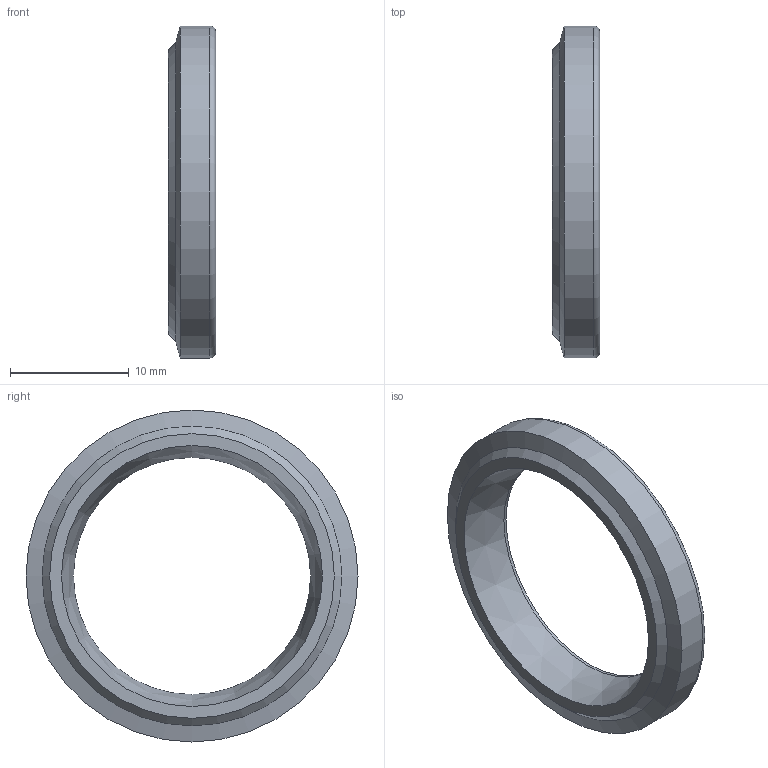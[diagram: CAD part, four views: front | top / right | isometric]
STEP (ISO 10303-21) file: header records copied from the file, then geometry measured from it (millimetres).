
FILE_DESCRIPTION(('STEP AP203'),'1');
FILE_NAME('D:/Desktop/BOSCH CAD/CBX/CBX-20.step','2022-02-17T07:19:47',(' '),(' '),'Spatial InterOp 3D',' ',' ');
FILE_SCHEMA(('CONFIG_CONTROL_DESIGN'));
Length unit declared in the file: millimetre
Products named in the file (1): 1
Bounding box: 4 x 28 x 28 mm (x, y, z)
Volume: 937.3 mm3; surface area: 1167.3 mm2
Topology: 1 solids, 1 shells, 12 faces, 20 edges, 12 vertices
Faces by surface type: cone 4, plane 4, cylinder 3, torus 1
Full cylindrical faces by diameter (mm): 20 x1, 22 x1, 28 x1
Entity records: 292 total; most frequent: DIRECTION 50, CARTESIAN_POINT 37, AXIS2_PLACEMENT_3D 25, EDGE_LOOP 24, ORIENTED_EDGE 24, FACE_OUTER_BOUND 16, ADVANCED_FACE 12, EDGE_CURVE 12
